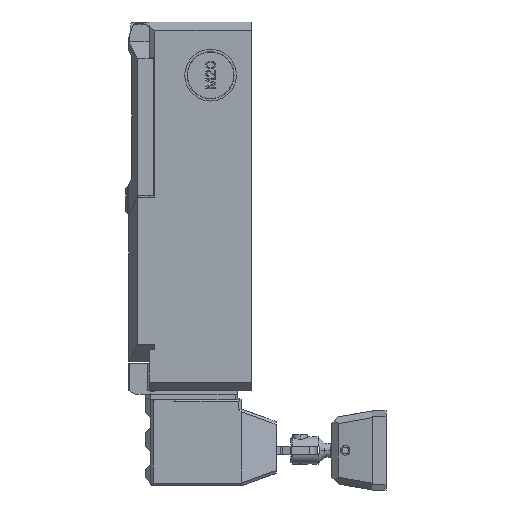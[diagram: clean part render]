
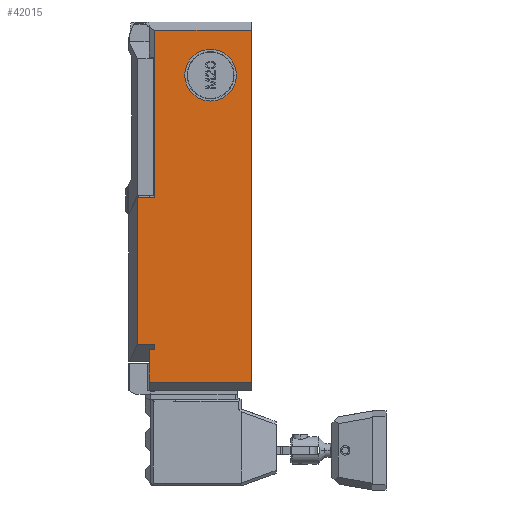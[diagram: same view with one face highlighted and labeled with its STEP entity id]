
A CAD part, left-side view. The second image highlights one B-rep face of the part: STEP entity #42015.
In plain terms, the highlighted planar face has unit normal (-1, 0, 0).
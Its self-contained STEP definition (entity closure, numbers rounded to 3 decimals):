
#1632=DIRECTION('',(0.,-1.,0.));
#1633=VECTOR('',#1632,35.5);
#1634=CARTESIAN_POINT('',(-21.25,21.,-133.5));
#1635=LINE('',#1634,#1633);
#3360=DIRECTION('',(0.,0.,1.));
#3361=VECTOR('',#3360,1.793);
#3362=CARTESIAN_POINT('',(-21.25,-14.5,-18.293));
#3363=LINE('',#3362,#3361);
#3446=DIRECTION('',(0.,1.,0.));
#3447=VECTOR('',#3446,2.);
#3448=CARTESIAN_POINT('',(-21.25,-16.5,-16.5));
#3449=LINE('',#3448,#3447);
#3453=DIRECTION('',(0.,-1.,0.));
#3454=VECTOR('',#3453,6.352);
#3455=CARTESIAN_POINT('',(-21.25,-14.5,-18.293));
#3456=LINE('',#3455,#3454);
#3460=DIRECTION('',(0.,1.,0.));
#3461=VECTOR('',#3460,6.352);
#3462=CARTESIAN_POINT('',(-21.25,-20.852,-72.284));
#3463=LINE('',#3462,#3461);
#3467=DIRECTION('',(0.,0.,-1.));
#3468=VECTOR('',#3467,10.);
#3469=CARTESIAN_POINT('',(-21.25,-14.5,-123.5));
#3470=LINE('',#3469,#3468);
#3474=DIRECTION('',(0.,0.,1.));
#3475=VECTOR('',#3474,129.);
#3476=CARTESIAN_POINT('',(-21.25,21.,-133.5));
#3477=LINE('',#3476,#3475);
#3481=CARTESIAN_POINT('',(-21.25,6.,-117.));
#3482=DIRECTION('',(-1.,0.,0.));
#3483=DIRECTION('',(0.,-1.,0.));
#3484=AXIS2_PLACEMENT_3D('',#3481,#3482,#3483);
#3489=CARTESIAN_POINT('',(-21.25,6.,-117.));
#3490=DIRECTION('',(-1.,0.,0.));
#3491=DIRECTION('',(0.,1.,0.));
#3492=AXIS2_PLACEMENT_3D('',#3489,#3490,#3491);
#3504=DIRECTION('',(0.,1.,0.));
#3505=VECTOR('',#3504,37.5);
#3506=CARTESIAN_POINT('',(-21.25,-16.5,-4.5));
#3507=LINE('',#3506,#3505);
#16734=DIRECTION('',(0.,0.,1.));
#16735=VECTOR('',#16734,12.);
#16736=CARTESIAN_POINT('',(-21.25,-16.5,-16.5));
#16737=LINE('',#16736,#16735);
#17118=DIRECTION('',(0.,0.,1.));
#17119=VECTOR('',#17118,53.991);
#17120=CARTESIAN_POINT('',(-21.25,-20.852,-72.284));
#17121=LINE('',#17120,#17119);
#17366=DIRECTION('',(0.,0.,1.));
#17367=VECTOR('',#17366,51.216);
#17368=CARTESIAN_POINT('',(-21.25,-14.5,-123.5));
#17369=LINE('',#17368,#17367);
#34108=CARTESIAN_POINT('',(-21.25,-14.5,-18.293));
#34109=VERTEX_POINT('',#34108);
#34138=CARTESIAN_POINT('',(-21.25,21.,-4.5));
#34139=VERTEX_POINT('',#34138);
#34140=CARTESIAN_POINT('',(-21.25,21.,-133.5));
#34141=VERTEX_POINT('',#34140);
#35247=CARTESIAN_POINT('',(-21.25,-14.5,-123.5));
#35248=VERTEX_POINT('',#35247);
#35249=CARTESIAN_POINT('',(-21.25,-14.5,-72.284));
#35250=VERTEX_POINT('',#35249);
#35253=CARTESIAN_POINT('',(-21.25,-14.5,-133.5));
#35254=VERTEX_POINT('',#35253);
#35663=CARTESIAN_POINT('',(-21.25,-20.852,-18.293));
#35664=VERTEX_POINT('',#35663);
#35665=CARTESIAN_POINT('',(-21.25,-20.852,-72.284));
#35666=VERTEX_POINT('',#35665);
#35667=CARTESIAN_POINT('',(-21.25,-3.46,-117.));
#35668=CARTESIAN_POINT('',(-21.25,15.46,-117.));
#35669=VERTEX_POINT('',#35667);
#35670=VERTEX_POINT('',#35668);
#37505=CARTESIAN_POINT('',(-21.25,-16.5,-16.5));
#37506=VERTEX_POINT('',#37505);
#37507=CARTESIAN_POINT('',(-21.25,-16.5,-4.5));
#37508=VERTEX_POINT('',#37507);
#37642=CARTESIAN_POINT('',(-21.25,-14.5,-16.5));
#37643=VERTEX_POINT('',#37642);
#41985=CARTESIAN_POINT('',(-21.25,-20.852,-1.5));
#41986=DIRECTION('',(-1.,0.,0.));
#41987=DIRECTION('',(0.,1.,0.));
#41988=AXIS2_PLACEMENT_3D('',#41985,#41986,#41987);
#41989=PLANE('',#41988);
#41991=ORIENTED_EDGE('',*,*,#41990,.F.);
#41993=ORIENTED_EDGE('',*,*,#41992,.F.);
#41994=ORIENTED_EDGE('',*,*,#41970,.T.);
#41995=ORIENTED_EDGE('',*,*,#41882,.F.);
#41997=ORIENTED_EDGE('',*,*,#41996,.T.);
#41999=ORIENTED_EDGE('',*,*,#41998,.F.);
#42001=ORIENTED_EDGE('',*,*,#42000,.T.);
#42003=ORIENTED_EDGE('',*,*,#42002,.F.);
#42004=ORIENTED_EDGE('',*,*,#40224,.T.);
#42005=ORIENTED_EDGE('',*,*,#40247,.F.);
#42006=ORIENTED_EDGE('',*,*,#39765,.T.);
#42007=EDGE_LOOP('',(#41991,#41993,#41994,#41995,#41997,#41999,#42001,#42003,
#42004,#42005,#42006));
#42008=FACE_OUTER_BOUND('',#42007,.F.);
#42010=ORIENTED_EDGE('',*,*,#42009,.T.);
#42012=ORIENTED_EDGE('',*,*,#42011,.T.);
#42013=EDGE_LOOP('',(#42010,#42012));
#42014=FACE_BOUND('',#42013,.F.);
#42015=ADVANCED_FACE('',(#42008,#42014),#41989,.T.);
#3485=CIRCLE('',#3484,9.46);
#3493=CIRCLE('',#3492,9.46);
#39765=EDGE_CURVE('',#34141,#34139,#3477,.T.);
#40224=EDGE_CURVE('',#35248,#35254,#3470,.T.);
#40247=EDGE_CURVE('',#34141,#35254,#1635,.T.);
#41882=EDGE_CURVE('',#34109,#37643,#3363,.T.);
#41970=EDGE_CURVE('',#37506,#37643,#3449,.T.);
#41990=EDGE_CURVE('',#37508,#34139,#3507,.T.);
#41992=EDGE_CURVE('',#37506,#37508,#16737,.T.);
#41996=EDGE_CURVE('',#34109,#35664,#3456,.T.);
#41998=EDGE_CURVE('',#35666,#35664,#17121,.T.);
#42000=EDGE_CURVE('',#35666,#35250,#3463,.T.);
#42002=EDGE_CURVE('',#35248,#35250,#17369,.T.);
#42009=EDGE_CURVE('',#35669,#35670,#3485,.T.);
#42011=EDGE_CURVE('',#35670,#35669,#3493,.T.);
